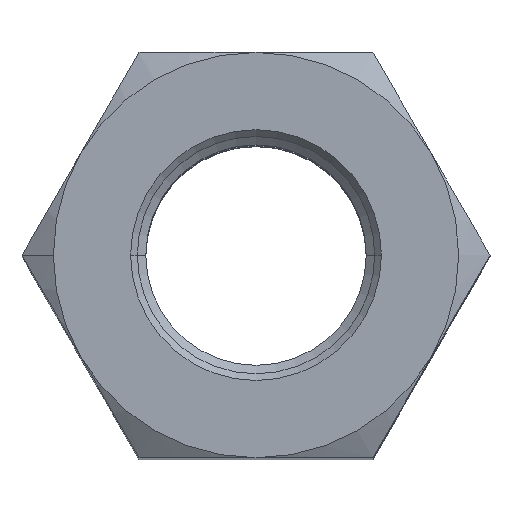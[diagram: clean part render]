
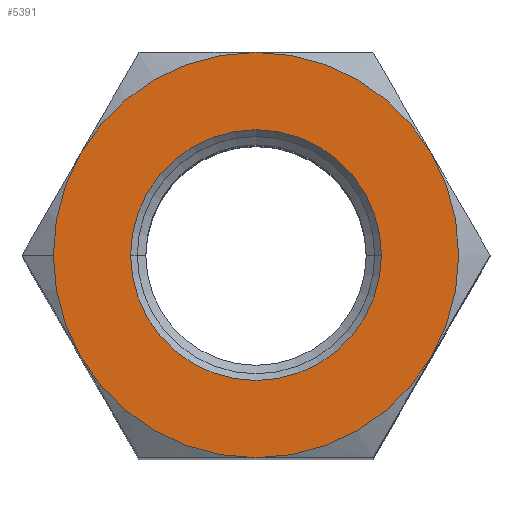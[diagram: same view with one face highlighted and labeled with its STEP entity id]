
A CAD part, top view. The second image highlights one B-rep face of the part: STEP entity #5391.
In plain terms, the highlighted planar face has unit normal (0, 0, 1).
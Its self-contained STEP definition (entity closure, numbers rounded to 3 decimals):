
#222 = DIRECTION ( 'NONE',  ( 1., 0., 0. ) ) ;
#531 = CARTESIAN_POINT ( 'NONE',  ( 6.928, -4., 20.5 ) ) ;
#809 = CARTESIAN_POINT ( 'NONE',  ( -4.95, 0., 20.5 ) ) ;
#833 = AXIS2_PLACEMENT_3D ( 'NONE', #16601, #8438, #222 ) ;
#903 = ORIENTED_EDGE ( 'NONE', *, *, #13133, .F. ) ;
#1034 = AXIS2_PLACEMENT_3D ( 'NONE', #15202, #7070, #16585 ) ;
#1049 = DIRECTION ( 'NONE',  ( 0., 0., 1. ) ) ;
#1448 = DIRECTION ( 'NONE',  ( 0., 0., 1. ) ) ;
#2097 = DIRECTION ( 'NONE',  ( 0., 0., -1. ) ) ;
#2290 = CARTESIAN_POINT ( 'NONE',  ( 6.928, 4., 20.5 ) ) ;
#2372 = CIRCLE ( 'NONE', #17178, 8. ) ;
#2484 = AXIS2_PLACEMENT_3D ( 'NONE', #9268, #1049, #10649 ) ;
#3409 = DIRECTION ( 'NONE',  ( 0., 0., -1. ) ) ;
#3492 = EDGE_LOOP ( 'NONE', ( #13484, #10565, #15059, #11774, #9728, #7277, #903 ) ) ;
#3559 = ORIENTED_EDGE ( 'NONE', *, *, #5475, .F. ) ;
#3962 = AXIS2_PLACEMENT_3D ( 'NONE', #7760, #3409, #11433 ) ;
#4258 = EDGE_CURVE ( 'NONE', #11984, #14495, #7495, .T. ) ;
#4360 = CARTESIAN_POINT ( 'NONE',  ( 0., 0., 20.5 ) ) ;
#4656 = CIRCLE ( 'NONE', #833, 8. ) ;
#4790 = VERTEX_POINT ( 'NONE', #17353 ) ;
#5126 = CARTESIAN_POINT ( 'NONE',  ( 0., 8., 20.5 ) ) ;
#5194 = VERTEX_POINT ( 'NONE', #809 ) ;
#5391 = ADVANCED_FACE ( 'NONE', ( #15293, #11688 ), #15248, .T. ) ;
#5475 = EDGE_CURVE ( 'NONE', #5194, #7844, #14635, .T. ) ;
#5738 = DIRECTION ( 'NONE',  ( 1., 0., 0. ) ) ;
#6320 = EDGE_LOOP ( 'NONE', ( #3559, #7781 ) ) ;
#7061 = DIRECTION ( 'NONE',  ( 1., 0., 0. ) ) ;
#7070 = DIRECTION ( 'NONE',  ( 0., 0., -1. ) ) ;
#7277 = ORIENTED_EDGE ( 'NONE', *, *, #7998, .F. ) ;
#7495 = CIRCLE ( 'NONE', #3962, 8. ) ;
#7760 = CARTESIAN_POINT ( 'NONE',  ( 0., 0., 20.5 ) ) ;
#7781 = ORIENTED_EDGE ( 'NONE', *, *, #17622, .F. ) ;
#7836 = CARTESIAN_POINT ( 'NONE',  ( 0., 0., 20.5 ) ) ;
#7842 = EDGE_CURVE ( 'NONE', #14495, #13658, #10029, .T. ) ;
#7844 = VERTEX_POINT ( 'NONE', #12067 ) ;
#7998 = EDGE_CURVE ( 'NONE', #4790, #11984, #4656, .T. ) ;
#8154 = DIRECTION ( 'NONE',  ( 0., 0., -1. ) ) ;
#8204 = CIRCLE ( 'NONE', #17129, 8. ) ;
#8438 = DIRECTION ( 'NONE',  ( 0., 0., -1. ) ) ;
#8736 = CIRCLE ( 'NONE', #1034, 8. ) ;
#8782 = VERTEX_POINT ( 'NONE', #14356 ) ;
#9191 = DIRECTION ( 'NONE',  ( 1., 0., 0. ) ) ;
#9268 = CARTESIAN_POINT ( 'NONE',  ( 0., 0., 20.5 ) ) ;
#9672 = DIRECTION ( 'NONE',  ( 0., 0., 1. ) ) ;
#9680 = CARTESIAN_POINT ( 'NONE',  ( 0., 0., 20.5 ) ) ;
#9728 = ORIENTED_EDGE ( 'NONE', *, *, #4258, .F. ) ;
#10029 = CIRCLE ( 'NONE', #12170, 8. ) ;
#10202 = AXIS2_PLACEMENT_3D ( 'NONE', #17588, #9672, #7061 ) ;
#10333 = CARTESIAN_POINT ( 'NONE',  ( 0., 0., 20.5 ) ) ;
#10565 = ORIENTED_EDGE ( 'NONE', *, *, #16236, .F. ) ;
#10649 = DIRECTION ( 'NONE',  ( 1., 0., 0. ) ) ;
#11053 = DIRECTION ( 'NONE',  ( 1., 0., 0. ) ) ;
#11433 = DIRECTION ( 'NONE',  ( 1., 0., 0. ) ) ;
#11688 = FACE_OUTER_BOUND ( 'NONE', #3492, .T. ) ;
#11695 = DIRECTION ( 'NONE',  ( 1., 0., 0. ) ) ;
#11774 = ORIENTED_EDGE ( 'NONE', *, *, #7842, .F. ) ;
#11984 = VERTEX_POINT ( 'NONE', #16034 ) ;
#12067 = CARTESIAN_POINT ( 'NONE',  ( 4.95, 0., 20.5 ) ) ;
#12170 = AXIS2_PLACEMENT_3D ( 'NONE', #16312, #8154, #17673 ) ;
#12390 = AXIS2_PLACEMENT_3D ( 'NONE', #9680, #1448, #11053 ) ;
#12406 = VERTEX_POINT ( 'NONE', #531 ) ;
#12481 = CIRCLE ( 'NONE', #17546, 8. ) ;
#12810 = EDGE_CURVE ( 'NONE', #13658, #13115, #12481, .T. ) ;
#13115 = VERTEX_POINT ( 'NONE', #2290 ) ;
#13133 = EDGE_CURVE ( 'NONE', #8782, #4790, #8204, .T. ) ;
#13484 = ORIENTED_EDGE ( 'NONE', *, *, #17693, .F. ) ;
#13658 = VERTEX_POINT ( 'NONE', #5126 ) ;
#13888 = DIRECTION ( 'NONE',  ( 0., 0., -1. ) ) ;
#14356 = CARTESIAN_POINT ( 'NONE',  ( 0., -8., 20.5 ) ) ;
#14495 = VERTEX_POINT ( 'NONE', #15830 ) ;
#14635 = CIRCLE ( 'NONE', #2484, 4.95 ) ;
#15059 = ORIENTED_EDGE ( 'NONE', *, *, #12810, .F. ) ;
#15202 = CARTESIAN_POINT ( 'NONE',  ( 0., 0., 20.5 ) ) ;
#15248 = PLANE ( 'NONE',  #10202 ) ;
#15293 = FACE_BOUND ( 'NONE', #6320, .T. ) ;
#15830 = CARTESIAN_POINT ( 'NONE',  ( -6.928, 4., 20.5 ) ) ;
#16034 = CARTESIAN_POINT ( 'NONE',  ( -8., 0., 20.5 ) ) ;
#16236 = EDGE_CURVE ( 'NONE', #13115, #12406, #2372, .T. ) ;
#16312 = CARTESIAN_POINT ( 'NONE',  ( 0., 0., 20.5 ) ) ;
#16585 = DIRECTION ( 'NONE',  ( 1., 0., 0. ) ) ;
#16601 = CARTESIAN_POINT ( 'NONE',  ( 0., 0., 20.5 ) ) ;
#17129 = AXIS2_PLACEMENT_3D ( 'NONE', #7836, #17347, #9191 ) ;
#17178 = AXIS2_PLACEMENT_3D ( 'NONE', #10333, #2097, #11695 ) ;
#17263 = CIRCLE ( 'NONE', #12390, 4.95 ) ;
#17347 = DIRECTION ( 'NONE',  ( 0., 0., -1. ) ) ;
#17353 = CARTESIAN_POINT ( 'NONE',  ( -6.928, -4., 20.5 ) ) ;
#17546 = AXIS2_PLACEMENT_3D ( 'NONE', #4360, #13888, #5738 ) ;
#17588 = CARTESIAN_POINT ( 'NONE',  ( -9.238, 0., 20.5 ) ) ;
#17622 = EDGE_CURVE ( 'NONE', #7844, #5194, #17263, .T. ) ;
#17673 = DIRECTION ( 'NONE',  ( -1., 0., 0. ) ) ;
#17693 = EDGE_CURVE ( 'NONE', #12406, #8782, #8736, .T. ) ;
